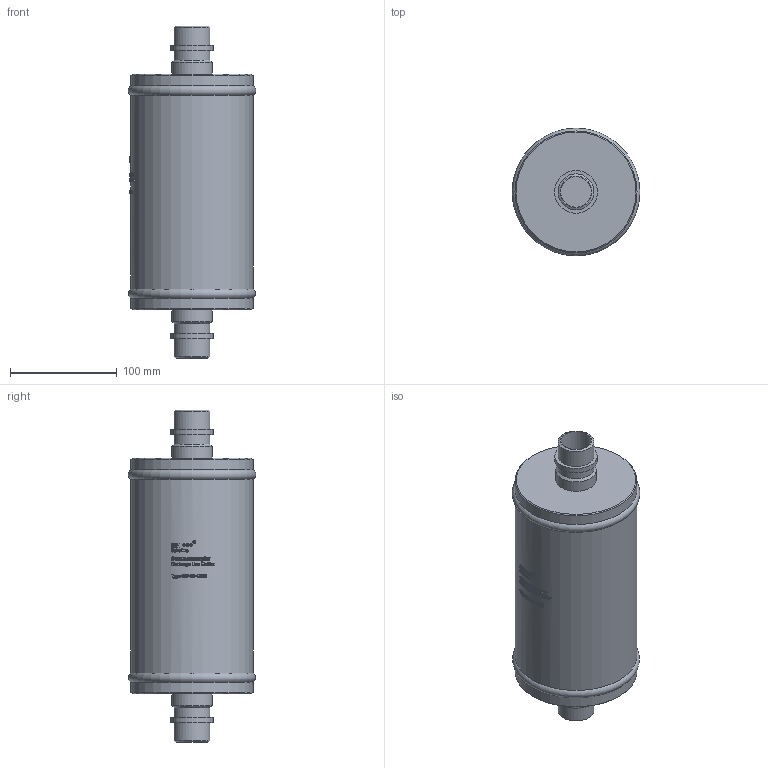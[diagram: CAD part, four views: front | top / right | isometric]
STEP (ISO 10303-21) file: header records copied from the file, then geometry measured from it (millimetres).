
FILE_DESCRIPTION(/* description */ (''),/* implementation_level */ '2;1');
FILE_NAME(/* name */ 'P:\GD\GD-28-CDH\GD-28-CDH.stp',/* time_stamp */ '2017-09-22T09:15:51+02:00',/* author */ ('neufeld'),/* organization */ (''),/* preprocessor_version */ 'ST-DEVELOPER v16.1',/* originating_system */ 'Autodesk Inventor 2016',/* authorisation */ '');
FILE_SCHEMA (('AUTOMOTIVE_DESIGN { 1 0 10303 214 3 1 1 }'));
Products named in the file (1): GD-28-CDH_AG-Kunde
Bounding box: 119.6 x 119.6 x 311 mm (x, y, z)
Volume: 2339665.5 mm3; surface area: 116830.5 mm2
Topology: 1 solids, 1 shells, 1163 faces, 3180 edges, 2118 vertices
Faces by surface type: bspline 612, plane 439, cylinder 104, cone 6, torus 2
Full cylindrical faces by diameter (mm): 28.7 x2, 33.7 x4, 38 x2, 40 x2, 114.3 x3
Entity records: 49561 total; most frequent: CARTESIAN_POINT 23907, ORIENTED_EDGE 6310, DIRECTION 3449, EDGE_CURVE 3155, VERTEX_POINT 2114, LINE 1517, VECTOR 1517, EDGE_LOOP 1283
